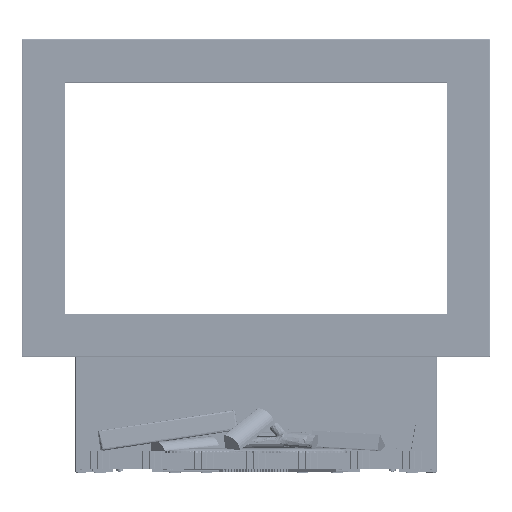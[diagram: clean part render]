
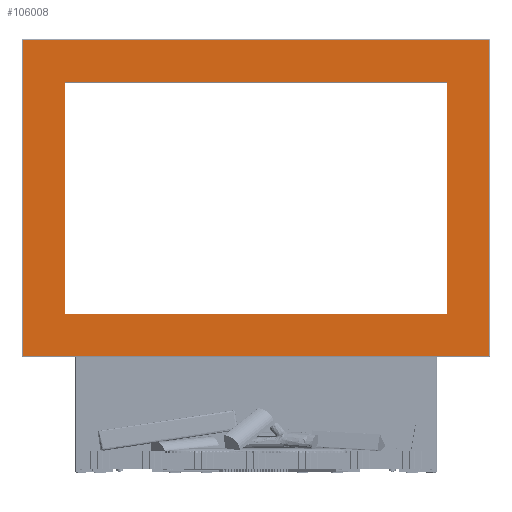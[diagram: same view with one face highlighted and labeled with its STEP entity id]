
A CAD part, top view. The second image highlights one B-rep face of the part: STEP entity #106008.
In plain terms, the highlighted planar face has unit normal (0, 0, 1) as drawn and (0, 0, -1) by its records, which use the part's own axes.
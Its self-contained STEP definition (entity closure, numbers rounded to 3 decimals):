
#8878 = LINE ( 'NONE', #301243, #182790 ) ;
#17453 = LINE ( 'NONE', #302085, #93508 ) ;
#19391 = VERTEX_POINT ( 'NONE', #104999 ) ;
#20771 = VERTEX_POINT ( 'NONE', #149086 ) ;
#30359 = DIRECTION ( 'NONE',  ( -1., 0., 0. ) ) ;
#30517 = LINE ( 'NONE', #127870, #235133 ) ;
#40822 = VECTOR ( 'NONE', #234508, 1000. ) ;
#42579 = AXIS2_PLACEMENT_3D ( 'NONE', #71320, #294508, #30359 ) ;
#46051 = EDGE_CURVE ( 'NONE', #19391, #107839, #30517, .T. ) ;
#48225 = ORIENTED_EDGE ( 'NONE', *, *, #193028, .T. ) ;
#48972 = EDGE_LOOP ( 'NONE', ( #178237, #301112, #116301, #192868 ) ) ;
#51019 = EDGE_LOOP ( 'NONE', ( #48225, #288085, #169336, #83509 ) ) ;
#60612 = VERTEX_POINT ( 'NONE', #254459 ) ;
#65764 = CARTESIAN_POINT ( 'NONE',  ( 808., -1098., 0. ) ) ;
#69531 = VECTOR ( 'NONE', #234575, 1000. ) ;
#71320 = CARTESIAN_POINT ( 'NONE',  ( 0., -550., 0. ) ) ;
#83509 = ORIENTED_EDGE ( 'NONE', *, *, #190641, .T. ) ;
#84244 = DIRECTION ( 'NONE',  ( 0., -1., 0. ) ) ;
#85176 = EDGE_CURVE ( 'NONE', #295211, #60612, #287923, .T. ) ;
#91306 = DIRECTION ( 'NONE',  ( 1., 0., 0. ) ) ;
#91494 = CARTESIAN_POINT ( 'NONE',  ( 0., -148., 0. ) ) ;
#93508 = VECTOR ( 'NONE', #204573, 1000. ) ;
#94513 = CARTESIAN_POINT ( 'NONE',  ( 662., -550., 0. ) ) ;
#94901 = FACE_OUTER_BOUND ( 'NONE', #51019, .T. ) ;
#104999 = CARTESIAN_POINT ( 'NONE',  ( -662., -952., 0. ) ) ;
#106008 = ADVANCED_FACE ( 'NONE', ( #214400, #94901 ), #190805, .T. ) ;
#107839 = VERTEX_POINT ( 'NONE', #245396 ) ;
#110871 = EDGE_CURVE ( 'NONE', #107839, #154656, #309968, .T. ) ;
#113310 = LINE ( 'NONE', #254874, #292654 ) ;
#116301 = ORIENTED_EDGE ( 'NONE', *, *, #46051, .T. ) ;
#126753 = DIRECTION ( 'NONE',  ( 0., -1., 0. ) ) ;
#127870 = CARTESIAN_POINT ( 'NONE',  ( 0., -952., 0. ) ) ;
#147533 = LINE ( 'NONE', #91494, #69531 ) ;
#149086 = CARTESIAN_POINT ( 'NONE',  ( -662., -148., 0. ) ) ;
#151878 = CARTESIAN_POINT ( 'NONE',  ( 808., -2., 0. ) ) ;
#154054 = CARTESIAN_POINT ( 'NONE',  ( 662., -148., 0. ) ) ;
#154656 = VERTEX_POINT ( 'NONE', #154054 ) ;
#168417 = VECTOR ( 'NONE', #286393, 1000. ) ;
#169336 = ORIENTED_EDGE ( 'NONE', *, *, #171698, .T. ) ;
#171698 = EDGE_CURVE ( 'NONE', #60612, #190603, #113310, .T. ) ;
#178237 = ORIENTED_EDGE ( 'NONE', *, *, #225777, .T. ) ;
#178579 = LINE ( 'NONE', #299693, #211066 ) ;
#182790 = VECTOR ( 'NONE', #126753, 1000. ) ;
#190603 = VERTEX_POINT ( 'NONE', #151878 ) ;
#190641 = EDGE_CURVE ( 'NONE', #190603, #283546, #8878, .T. ) ;
#190805 = PLANE ( 'NONE',  #42579 ) ;
#192868 = ORIENTED_EDGE ( 'NONE', *, *, #110871, .T. ) ;
#193028 = EDGE_CURVE ( 'NONE', #283546, #295211, #17453, .T. ) ;
#204573 = DIRECTION ( 'NONE',  ( -1., 0., 0. ) ) ;
#211066 = VECTOR ( 'NONE', #84244, 1000. ) ;
#214400 = FACE_BOUND ( 'NONE', #48972, .T. ) ;
#220750 = DIRECTION ( 'NONE',  ( 1., 0., 0. ) ) ;
#225777 = EDGE_CURVE ( 'NONE', #154656, #20771, #147533, .T. ) ;
#234508 = DIRECTION ( 'NONE',  ( 0., 1., 0. ) ) ;
#234575 = DIRECTION ( 'NONE',  ( -1., 0., 0. ) ) ;
#235133 = VECTOR ( 'NONE', #220750, 1000. ) ;
#237564 = CARTESIAN_POINT ( 'NONE',  ( -808., 0., 0. ) ) ;
#245396 = CARTESIAN_POINT ( 'NONE',  ( 662., -952., 0. ) ) ;
#254459 = CARTESIAN_POINT ( 'NONE',  ( -808., -2., 0. ) ) ;
#254874 = CARTESIAN_POINT ( 'NONE',  ( 810., -2., 0. ) ) ;
#283546 = VERTEX_POINT ( 'NONE', #65764 ) ;
#286393 = DIRECTION ( 'NONE',  ( 0., 1., 0. ) ) ;
#287923 = LINE ( 'NONE', #237564, #168417 ) ;
#288085 = ORIENTED_EDGE ( 'NONE', *, *, #85176, .T. ) ;
#291126 = CARTESIAN_POINT ( 'NONE',  ( -808., -1098., 0. ) ) ;
#292654 = VECTOR ( 'NONE', #91306, 1000. ) ;
#294508 = DIRECTION ( 'NONE',  ( 0., 0., -1. ) ) ;
#295211 = VERTEX_POINT ( 'NONE', #291126 ) ;
#299693 = CARTESIAN_POINT ( 'NONE',  ( -662., -550., 0. ) ) ;
#301112 = ORIENTED_EDGE ( 'NONE', *, *, #310066, .T. ) ;
#301243 = CARTESIAN_POINT ( 'NONE',  ( 808., -550., 0. ) ) ;
#302085 = CARTESIAN_POINT ( 'NONE',  ( 0., -1098., 0. ) ) ;
#309968 = LINE ( 'NONE', #94513, #40822 ) ;
#310066 = EDGE_CURVE ( 'NONE', #20771, #19391, #178579, .T. ) ;
